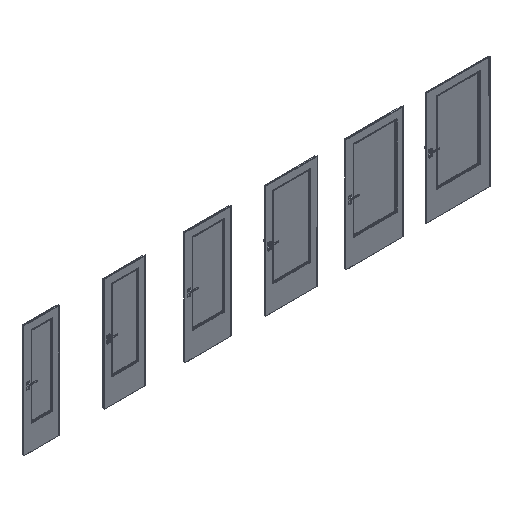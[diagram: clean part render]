
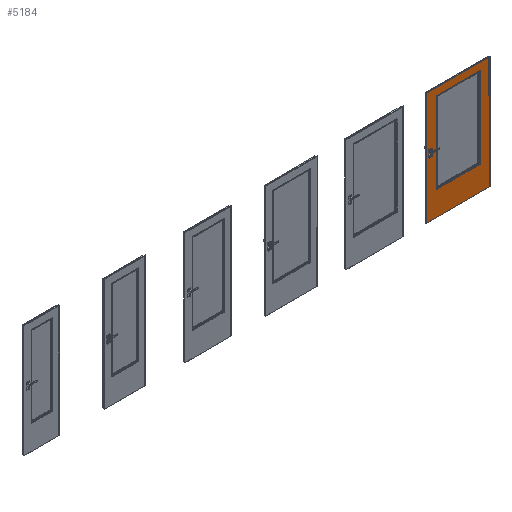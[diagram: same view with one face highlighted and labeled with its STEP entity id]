
A CAD part, isometric view. The second image highlights one B-rep face of the part: STEP entity #5184.
In plain terms, the highlighted planar face has unit normal (0, -1, 0).
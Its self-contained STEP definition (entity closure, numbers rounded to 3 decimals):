
#1452=B_SPLINE_CURVE_WITH_KNOTS('',3,(#70257,#70258,#70259,#70260),
 .UNSPECIFIED.,.F.,.F.,(4,4),(0.,1.),.UNSPECIFIED.);
#1453=B_SPLINE_CURVE_WITH_KNOTS('',3,(#70263,#70264,#70265,#70266),
 .UNSPECIFIED.,.F.,.F.,(4,4),(0.,1.),.UNSPECIFIED.);
#1454=B_SPLINE_CURVE_WITH_KNOTS('',3,(#70268,#70269,#70270,#70271),
 .UNSPECIFIED.,.F.,.F.,(4,4),(0.,1.),.UNSPECIFIED.);
#1455=B_SPLINE_CURVE_WITH_KNOTS('',3,(#70273,#70274,#70275,#70276),
 .UNSPECIFIED.,.F.,.F.,(4,4),(0.,1.),.UNSPECIFIED.);
#1456=B_SPLINE_CURVE_WITH_KNOTS('',3,(#70278,#70279,#70280,#70281),
 .UNSPECIFIED.,.F.,.F.,(4,4),(0.,1.),.UNSPECIFIED.);
#5184=ADVANCED_FACE('',(#7609,#7610),#6356,.F.);
#6356=PLANE('',#30075);
#7609=FACE_BOUND('',#8819,.T.);
#7610=FACE_BOUND('',#8820,.T.);
#8819=EDGE_LOOP('',(#14762,#14763,#14764,#14765));
#8820=EDGE_LOOP('',(#14766,#14767,#14768,#14769,#14770));
#14762=ORIENTED_EDGE('',*,*,#23053,.T.);
#14763=ORIENTED_EDGE('',*,*,#23054,.T.);
#14764=ORIENTED_EDGE('',*,*,#23055,.F.);
#14765=ORIENTED_EDGE('',*,*,#23056,.F.);
#14766=ORIENTED_EDGE('',*,*,#23057,.F.);
#14767=ORIENTED_EDGE('',*,*,#23058,.F.);
#14768=ORIENTED_EDGE('',*,*,#23059,.F.);
#14769=ORIENTED_EDGE('',*,*,#23060,.F.);
#14770=ORIENTED_EDGE('',*,*,#23061,.F.);
#19521=VERTEX_POINT('',#70250);
#19522=VERTEX_POINT('',#70251);
#19523=VERTEX_POINT('',#70253);
#19524=VERTEX_POINT('',#70255);
#19525=VERTEX_POINT('',#70261);
#19526=VERTEX_POINT('',#70262);
#19527=VERTEX_POINT('',#70267);
#19528=VERTEX_POINT('',#70272);
#19529=VERTEX_POINT('',#70277);
#23053=EDGE_CURVE('',#19521,#19522,#26019,.T.);
#23054=EDGE_CURVE('',#19522,#19523,#26020,.T.);
#23055=EDGE_CURVE('',#19524,#19523,#26021,.T.);
#23056=EDGE_CURVE('',#19521,#19524,#26022,.T.);
#23057=EDGE_CURVE('',#19525,#19526,#1452,.T.);
#23058=EDGE_CURVE('',#19527,#19525,#1453,.T.);
#23059=EDGE_CURVE('',#19528,#19527,#1454,.T.);
#23060=EDGE_CURVE('',#19529,#19528,#1455,.T.);
#23061=EDGE_CURVE('',#19526,#19529,#1456,.T.);
#26019=LINE('',#70249,#28203);
#26020=LINE('',#70252,#28204);
#26021=LINE('',#70254,#28205);
#26022=LINE('',#70256,#28206);
#28203=VECTOR('',#34520,1.);
#28204=VECTOR('',#34521,1.);
#28205=VECTOR('',#34522,1.);
#28206=VECTOR('',#34523,1.);
#30075=AXIS2_PLACEMENT_3D('',#70282,#34524,#34525);
#34520=DIRECTION('',(0.,0.,-1.));
#34521=DIRECTION('',(1.,0.,0.));
#34522=DIRECTION('',(0.,0.,-1.));
#34523=DIRECTION('',(1.,0.,0.));
#34524=DIRECTION('',(0.,1.,0.));
#34525=DIRECTION('',(-1.,0.,0.));
#70249=CARTESIAN_POINT('',(6928.,-39.3,2030.));
#70250=CARTESIAN_POINT('',(6928.,-39.3,2030.));
#70251=CARTESIAN_POINT('',(6928.,-39.3,2.));
#70252=CARTESIAN_POINT('',(7178.,-39.3,2.));
#70253=CARTESIAN_POINT('',(8072.,-39.3,2.));
#70254=CARTESIAN_POINT('',(8072.,-39.3,2030.));
#70255=CARTESIAN_POINT('',(8072.,-39.3,2030.));
#70256=CARTESIAN_POINT('',(7178.,-39.3,2030.));
#70257=CARTESIAN_POINT('',(7108.,-39.3,445.));
#70258=CARTESIAN_POINT('',(7238.667,-39.3,445.));
#70259=CARTESIAN_POINT('',(7369.333,-39.3,445.));
#70260=CARTESIAN_POINT('',(7500.,-39.3,445.));
#70261=CARTESIAN_POINT('',(7108.,-39.3,445.));
#70262=CARTESIAN_POINT('',(7500.,-39.3,445.));
#70263=CARTESIAN_POINT('',(7108.,-39.3,1900.));
#70264=CARTESIAN_POINT('',(7108.,-39.3,1415.));
#70265=CARTESIAN_POINT('',(7108.,-39.3,930.));
#70266=CARTESIAN_POINT('',(7108.,-39.3,445.));
#70267=CARTESIAN_POINT('',(7108.,-39.3,1900.));
#70268=CARTESIAN_POINT('',(7892.,-39.3,1900.));
#70269=CARTESIAN_POINT('',(7630.667,-39.3,1900.));
#70270=CARTESIAN_POINT('',(7369.333,-39.3,1900.));
#70271=CARTESIAN_POINT('',(7108.,-39.3,1900.));
#70272=CARTESIAN_POINT('',(7892.,-39.3,1900.));
#70273=CARTESIAN_POINT('',(7892.,-39.3,445.));
#70274=CARTESIAN_POINT('',(7892.,-39.3,930.));
#70275=CARTESIAN_POINT('',(7892.,-39.3,1415.));
#70276=CARTESIAN_POINT('',(7892.,-39.3,1900.));
#70277=CARTESIAN_POINT('',(7892.,-39.3,445.));
#70278=CARTESIAN_POINT('',(7500.,-39.3,445.));
#70279=CARTESIAN_POINT('',(7630.667,-39.3,445.));
#70280=CARTESIAN_POINT('',(7761.333,-39.3,445.));
#70281=CARTESIAN_POINT('',(7892.,-39.3,445.));
#70282=CARTESIAN_POINT('',(7178.,-39.3,2030.));
